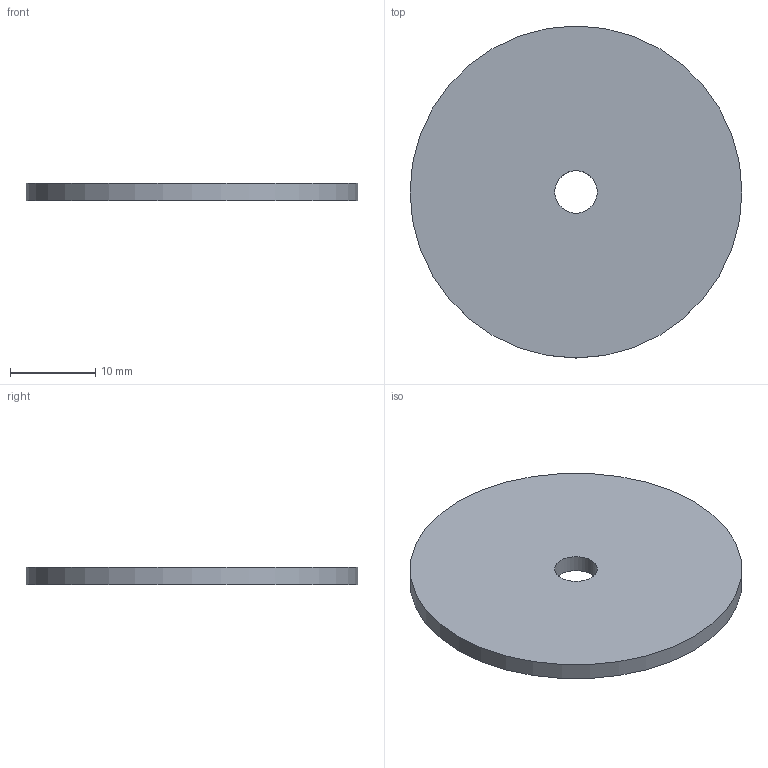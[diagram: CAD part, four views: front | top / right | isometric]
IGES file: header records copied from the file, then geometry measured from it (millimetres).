
Start section: Data from Parasolid IGES Translator 28.1.247, Copyright(c) 2006 Siemens PLM Software. All Rights Reserved.
Global section: file name: 692091f9651695f604e48ecd.iges; native system: By Siemens PLM Incorporated; preprocessor: XPlus GENERIC/IGES 28.1.247; author: Noname; organization: Noname; date: 20251121.162322; units: metre
Bounding box: 39 x 39 x 2 mm (x, y, z)
Surface area: 2626.4 mm2 (no closed solid volume)
Topology: 0 solids, 0 shells, 4 faces, 12 edges, 10 vertices
Faces by surface type: revolution 2, extrusion 2
